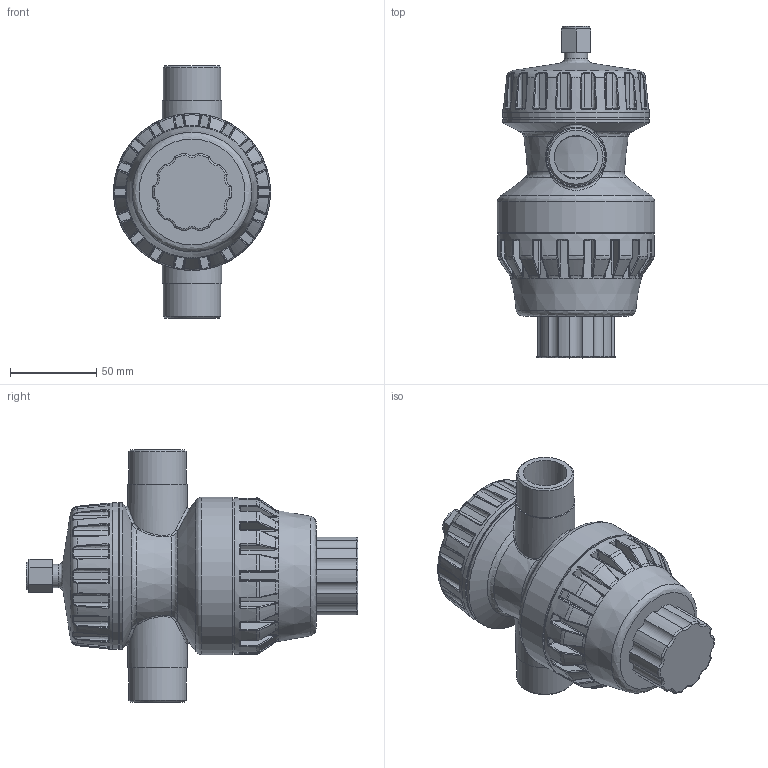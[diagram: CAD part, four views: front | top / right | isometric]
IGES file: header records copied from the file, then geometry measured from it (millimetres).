
Global section: file name: 0220.ipt; native system: Autodesk Inventor 2019; preprocessor: unknown; author: KIM; date: 20210704.141823; units: millimetre
Bounding box: 91 x 192 x 146 mm (x, y, z)
Volume: 754051.4 mm3; surface area: 73657.9 mm2
Topology: 1 solids, 1 shells, 1206 faces, 2758 edges, 1563 vertices
Faces by surface type: bspline 568, revolution 386, plane 145, cylinder 76, cone 31
Full cylindrical faces by diameter (mm): 13.5 x1, 16.1 x1, 33.249 x2, 34.5 x2, 83.6 x1, 85 x2, 89.1 x1, 90.5 x1, 91 x1
